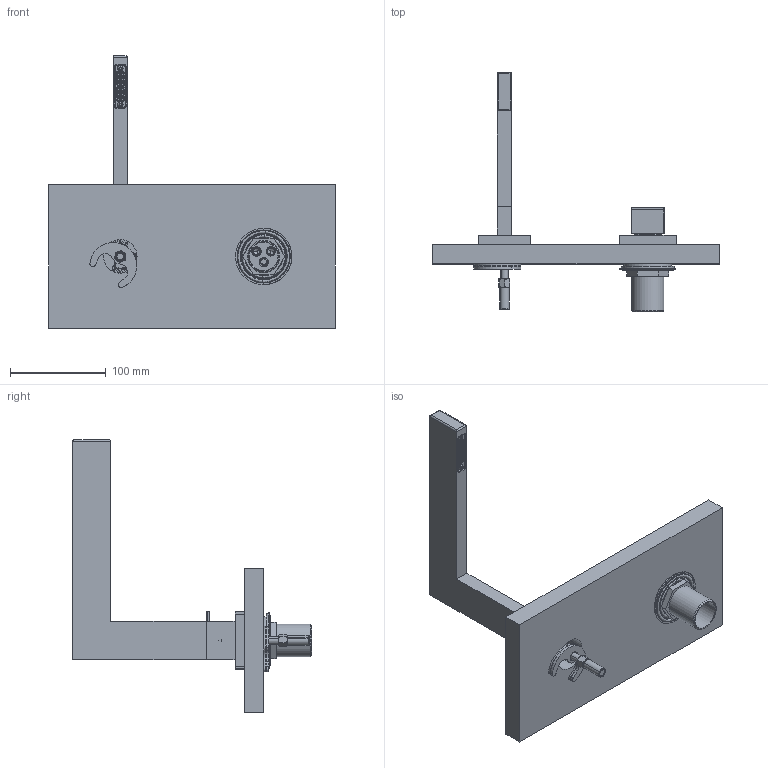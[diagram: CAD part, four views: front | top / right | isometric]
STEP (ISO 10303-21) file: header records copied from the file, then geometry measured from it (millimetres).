
FILE_DESCRIPTION (( 'STEP AP203' ), '1' );
FILE_NAME ('H5T7.STEP', '2023-10-17T12:23:12', ( '' ), ( '' ), 'SwSTEP 2.0', 'SolidWorks 2021', '' );
FILE_SCHEMA (( 'CONFIG_CONTROL_DESIGN' ));
Length unit declared in the file: millimetre
Products named in the file (34): FISSGECO001; C10.00.0013; eu01_flangia_sagomata; C25.0205.00.0; C11.10.0014; C11.15.0002; FISSBIB001; eu01_rondella_gomma; AS476_00; eu01_tirante; H5T25; eu01_rondella_gomma_spugna; C24.0120.00.1; C24.0117.00.0; C24.0495.00.0; C24.0039.00.0; C24.1400.00.0; eu01_dado_tirante; TOP IN QUERCIA 2; eu01_flangia_gomma; C11.10.0003; C24.0105.00.0; C13.00.0017; C25.1405.00.0; C12.00.0043; C11.14.0019; H5T7; C24.0119.00.2; eu01_dado_esa_x_codolo; AS019_00; eu01_flangia_fe_zincato; C12.00.0001; C47.00.0023.01; C24.0010.00.0
Assembly tree (40 placements, depth 4):
  H5T7
    AS019_00
      C11.15.0002  x2
      C12.00.0001
      C25.0205.00.0
      C11.14.0019
      C47.00.0023.01
      C24.0039.00.0
      C11.10.0014  x4
      C24.0117.00.0
      AS476_00
        C24.1400.00.0
        C25.1405.00.0
        C13.00.0017
        C11.10.0003  x2
    H5T25
      C24.0010.00.0
      C24.0105.00.0
      C12.00.0043
      C24.0119.00.2
      C24.0120.00.1
      C10.00.0013
      C24.0495.00.0
      C11.14.0019
      C47.00.0023.01
    TOP IN QUERCIA 2
    FISSBIB001
      eu01_tirante
      eu01_flangia_gomma
      eu01_flangia_fe_zincato
      eu01_dado_tirante
    FISSGECO001
      eu01_flangia_sagomata
      eu01_rondella_gomma
      eu01_rondella_gomma_spugna
      eu01_dado_esa_x_codolo
Bounding box: 300 x 250 x 284.84 mm (x, y, z)
Volume: 1187244.5 mm3; surface area: 256551.7 mm2
Topology: 34 solids, 44 shells, 2145 faces, 6064 edges, 3953 vertices
Faces by surface type: plane 879, cylinder 826, cone 222, bspline 140, torus 78
Entity records: 78341 total; most frequent: CARTESIAN_POINT 21398, ORIENTED_EDGE 11026, DIRECTION 10846, EDGE_CURVE 5743, AXIS2_PLACEMENT_3D 3904, VERTEX_POINT 3777, VECTOR 3038, LINE 3038
